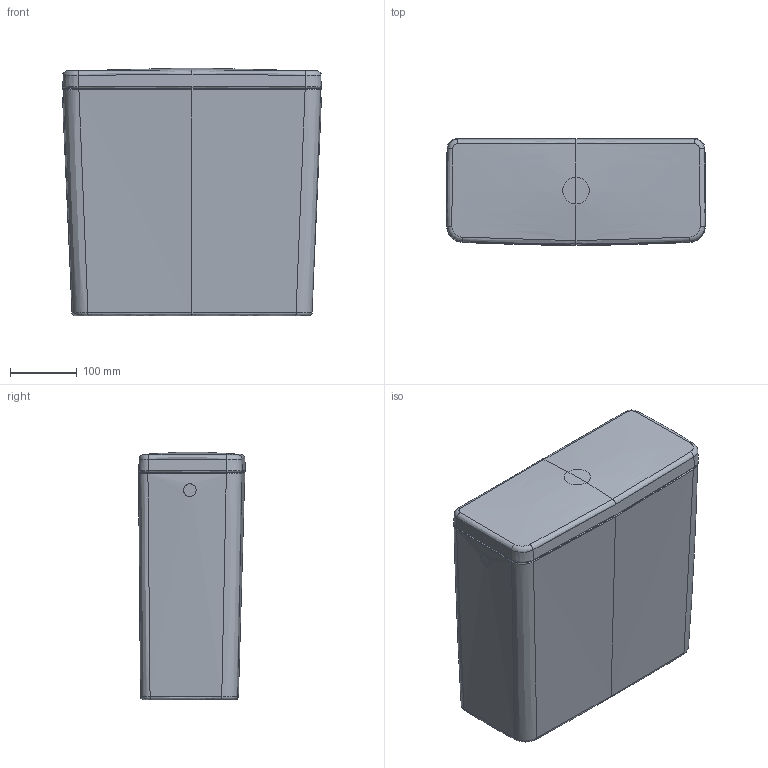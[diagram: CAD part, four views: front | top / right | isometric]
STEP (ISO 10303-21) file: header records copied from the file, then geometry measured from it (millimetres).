
FILE_DESCRIPTION(/* description */ (''),/* implementation_level */ '2;1');
FILE_NAME(/* name */ '82808X_Tank_BIM.stp',/* time_stamp */ '2024-08-29T10:06:37+02:00',/* author */ (''),/* organization */ (''),/* preprocessor_version */ 'ST-DEVELOPER v16.7',/* originating_system */ 'SIEMENS PLM Software NX 1946',/* authorisation */ '');
FILE_SCHEMA (('AUTOMOTIVE_DESIGN { 1 0 10303 214 3 1 1 1 }'));
Length unit declared in the file: millimetre
Products named in the file (1): kreo9C7CD446ytd4
Bounding box: 390.54 x 160.72 x 371.98 mm (x, y, z)
Volume: 21047198.4 mm3; surface area: 491874.7 mm2
Topology: 1 solids, 1 shells, 109 faces, 251 edges, 147 vertices
Faces by surface type: bspline 74, cylinder 18, plane 12, cone 5
Entity records: 8070 total; most frequent: CARTESIAN_POINT 6102, ORIENTED_EDGE 498, EDGE_CURVE 249, DIRECTION 240, VERTEX_POINT 147, B_SPLINE_CURVE_WITH_KNOTS 144, EDGE_LOOP 114, ADVANCED_FACE 109
